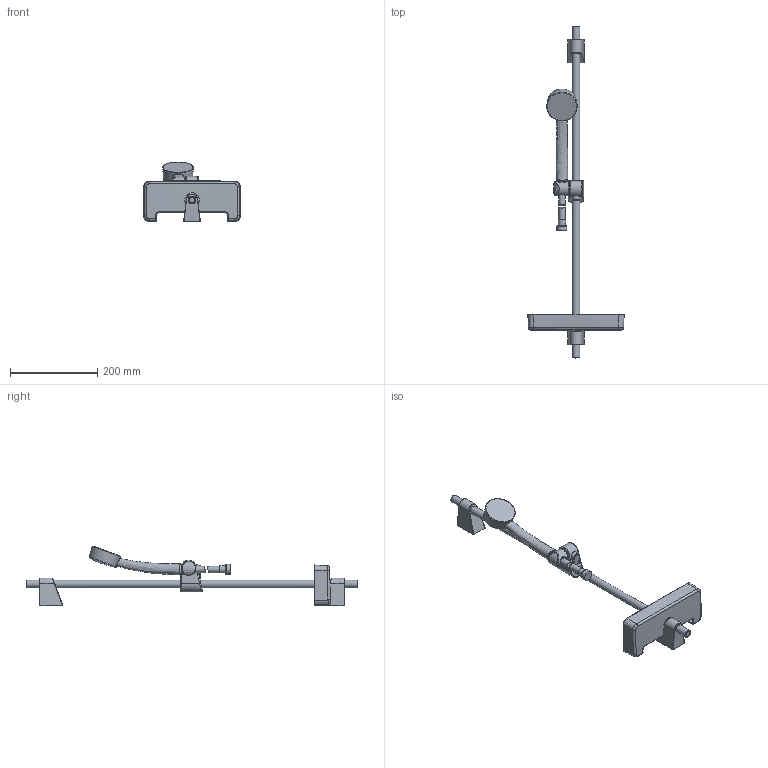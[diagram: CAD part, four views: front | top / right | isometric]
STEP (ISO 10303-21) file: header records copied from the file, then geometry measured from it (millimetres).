
FILE_DESCRIPTION (( 'STEP AP203' ), '1' );
FILE_NAME ('540(2016).STEP', '2017-03-09T05:55:06', ( '' ), ( '' ), 'SwSTEP 2.0', 'SolidWorks 2016', '' );
FILE_SCHEMA (( 'CONFIG_CONTROL_DESIGN' ));
Length unit declared in the file: millimetre
Products named in the file (1): 540(2016)
Bounding box: 221.91 x 762.76 x 137.63 mm (x, y, z)
Volume: 763527.3 mm3; surface area: 170936.7 mm2
Topology: 4 solids, 4 shells, 268 faces, 620 edges, 375 vertices
Faces by surface type: bspline 154, plane 41, cylinder 40, torus 25, cone 5, sphere 3
Full cylindrical faces by diameter (mm): 15 x2, 16.1 x1, 17.8 x4, 18.2 x1, 22.6 x1, 22.95 x1
Entity records: 19351 total; most frequent: CARTESIAN_POINT 14682, ORIENTED_EDGE 1156, DIRECTION 618, EDGE_CURVE 578, VERTEX_POINT 360, EDGE_LOOP 310, FACE_OUTER_BOUND 290, B_SPLINE_CURVE_WITH_KNOTS 278
